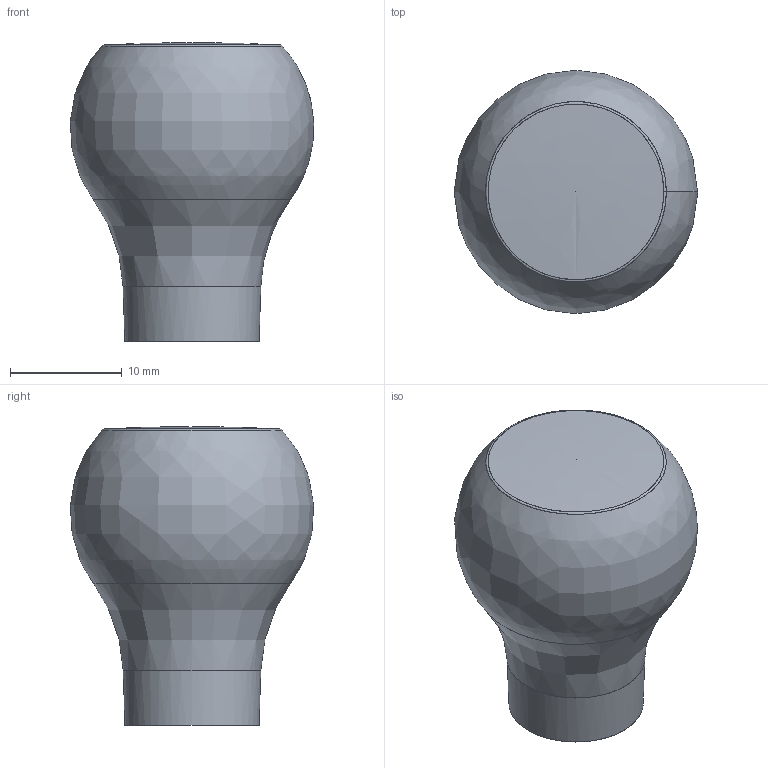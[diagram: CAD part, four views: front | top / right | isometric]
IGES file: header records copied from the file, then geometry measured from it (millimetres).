
Start section: C
Global section: file name: 8364.igs; native system: By Siemens PLM Incorporated; preprocessor: XPlus GENERIC/IGES 16.0.42; author: Author; organization: Title; date: 20250219.140124; units: millimetre
Bounding box: 21.78 x 21.77 x 26.71 mm (x, y, z)
Surface area: 2071.4 mm2 (no closed solid volume)
Topology: 0 solids, 0 shells, 8 faces, 43 edges, 42 vertices
Faces by surface type: bspline 8
